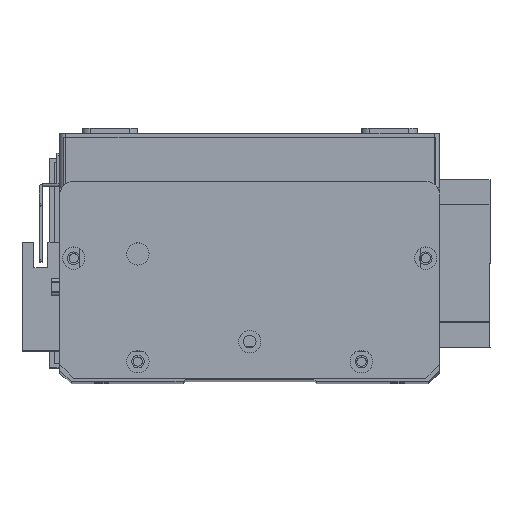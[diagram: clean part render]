
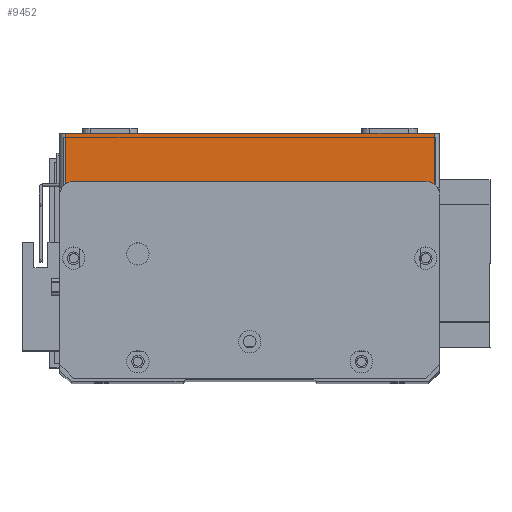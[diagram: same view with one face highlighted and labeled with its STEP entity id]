
A CAD part, top view. The second image highlights one B-rep face of the part: STEP entity #9452.
In plain terms, the highlighted planar face has unit normal (0, 0, 1) as drawn and (0, -1, 0) by its records, which use the part's own axes.
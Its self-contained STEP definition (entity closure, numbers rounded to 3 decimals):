
#2735 = ORIENTED_EDGE ( 'NONE', *, *, #3044, .T. ) ;
#3044 = EDGE_CURVE ( 'NONE', #3901, #21232, #13191, .T. ) ;
#3309 = CARTESIAN_POINT ( 'NONE',  ( 2., 0., 0. ) ) ;
#3419 = EDGE_CURVE ( 'NONE', #23780, #3901, #26951, .T. ) ;
#3520 = VECTOR ( 'NONE', #20232, 1000. ) ;
#3811 = LINE ( 'NONE', #19983, #4513 ) ;
#3901 = VERTEX_POINT ( 'NONE', #21008 ) ;
#4465 = DIRECTION ( 'NONE',  ( 1., 0., 0. ) ) ;
#4513 = VECTOR ( 'NONE', #4465, 1000. ) ;
#6646 = AXIS2_PLACEMENT_3D ( 'NONE', #14635, #8120, #23490 ) ;
#7383 = VECTOR ( 'NONE', #27773, 1000. ) ;
#8120 = DIRECTION ( 'NONE',  ( 0., 1., 0. ) ) ;
#9452 = ADVANCED_FACE ( 'NONE', ( #27494 ), #16852, .F. ) ;
#9868 = DIRECTION ( 'NONE',  ( 0., 0., -1. ) ) ;
#10719 = CARTESIAN_POINT ( 'NONE',  ( 134., 0., 19.5 ) ) ;
#12407 = VECTOR ( 'NONE', #9868, 1000. ) ;
#13191 = LINE ( 'NONE', #20722, #7383 ) ;
#13262 = EDGE_LOOP ( 'NONE', ( #16019, #22940, #16642, #2735 ) ) ;
#14635 = CARTESIAN_POINT ( 'NONE',  ( 0., 0., 19.5 ) ) ;
#16019 = ORIENTED_EDGE ( 'NONE', *, *, #25893, .F. ) ;
#16432 = CARTESIAN_POINT ( 'NONE',  ( 2., 0., 19.5 ) ) ;
#16642 = ORIENTED_EDGE ( 'NONE', *, *, #3419, .T. ) ;
#16852 = PLANE ( 'NONE',  #6646 ) ;
#17373 = EDGE_CURVE ( 'NONE', #24420, #23780, #18272, .T. ) ;
#18272 = LINE ( 'NONE', #16432, #12407 ) ;
#19983 = CARTESIAN_POINT ( 'NONE',  ( 0., 0., 19.5 ) ) ;
#20232 = DIRECTION ( 'NONE',  ( 1., 0., 0. ) ) ;
#20722 = CARTESIAN_POINT ( 'NONE',  ( 134., 0., 19.5 ) ) ;
#21008 = CARTESIAN_POINT ( 'NONE',  ( 134., 0., 0. ) ) ;
#21232 = VERTEX_POINT ( 'NONE', #10719 ) ;
#22422 = CARTESIAN_POINT ( 'NONE',  ( 0., 0., 0. ) ) ;
#22940 = ORIENTED_EDGE ( 'NONE', *, *, #17373, .T. ) ;
#23490 = DIRECTION ( 'NONE',  ( 0., 0., 1. ) ) ;
#23780 = VERTEX_POINT ( 'NONE', #3309 ) ;
#24420 = VERTEX_POINT ( 'NONE', #27469 ) ;
#25893 = EDGE_CURVE ( 'NONE', #24420, #21232, #3811, .T. ) ;
#26951 = LINE ( 'NONE', #22422, #3520 ) ;
#27469 = CARTESIAN_POINT ( 'NONE',  ( 2., 0., 19.5 ) ) ;
#27494 = FACE_OUTER_BOUND ( 'NONE', #13262, .T. ) ;
#27773 = DIRECTION ( 'NONE',  ( 0., 0., 1. ) ) ;
